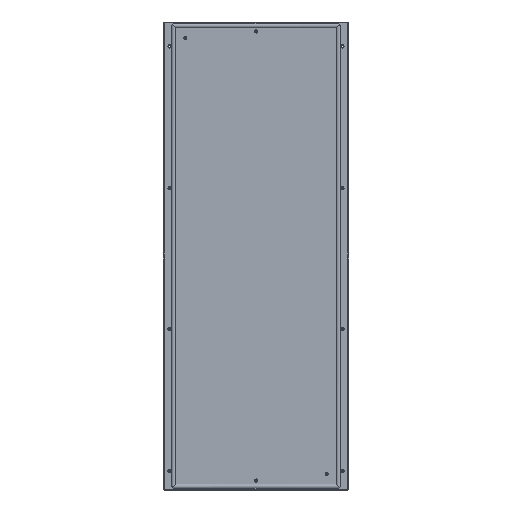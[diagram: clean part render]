
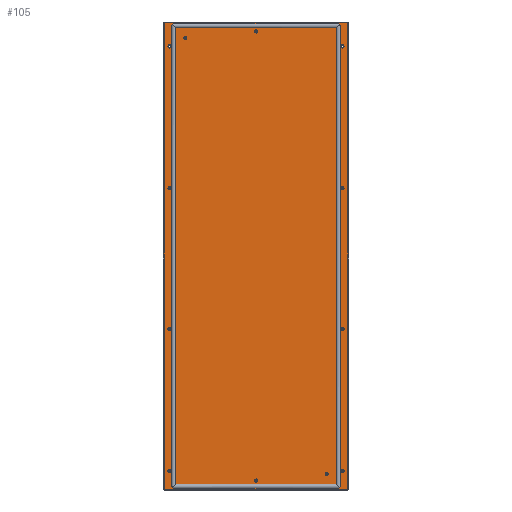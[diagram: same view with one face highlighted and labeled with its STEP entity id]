
A CAD part, top view. The second image highlights one B-rep face of the part: STEP entity #105.
In plain terms, the highlighted planar face has unit normal (0, 0, 1).
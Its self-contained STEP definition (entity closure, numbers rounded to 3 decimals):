
#105=ADVANCED_FACE('',(#428,#430,#432,#434,#436,#438,#440,#442,#444,#446,#448,#450,
#452),#454,.T.);
#428=FACE_BOUND('',#429,.T.);
#429=EDGE_LOOP('',(#1729,#1730,#1731,#1732));
#430=FACE_BOUND('',#431,.T.);
#431=EDGE_LOOP('',(#1733));
#432=FACE_BOUND('',#433,.T.);
#433=EDGE_LOOP('',(#1734));
#434=FACE_BOUND('',#435,.T.);
#435=EDGE_LOOP('',(#1735));
#436=FACE_BOUND('',#437,.T.);
#437=EDGE_LOOP('',(#1736));
#438=FACE_BOUND('',#439,.T.);
#439=EDGE_LOOP('',(#1737));
#440=FACE_BOUND('',#441,.T.);
#441=EDGE_LOOP('',(#1738));
#442=FACE_BOUND('',#443,.T.);
#443=EDGE_LOOP('',(#1739));
#444=FACE_BOUND('',#445,.T.);
#445=EDGE_LOOP('',(#1740));
#446=FACE_BOUND('',#447,.T.);
#447=EDGE_LOOP('',(#1741));
#448=FACE_BOUND('',#449,.T.);
#449=EDGE_LOOP('',(#1742));
#450=FACE_BOUND('',#451,.T.);
#451=EDGE_LOOP('',(#1743));
#452=FACE_BOUND('',#453,.T.);
#453=EDGE_LOOP('',(#1744));
#454=PLANE('',#455);
#455=AXIS2_PLACEMENT_3D('',#456,#457,#458);
#456=CARTESIAN_POINT('',(0.,0.,1.4));
#457=DIRECTION('',(0.,0.,1.));
#458=DIRECTION('',(1.,0.,0.));
#1729=ORIENTED_EDGE('',*,*,#2273,.F.);
#1730=ORIENTED_EDGE('',*,*,#2274,.F.);
#1731=ORIENTED_EDGE('',*,*,#2275,.F.);
#1732=ORIENTED_EDGE('',*,*,#2276,.F.);
#1733=ORIENTED_EDGE('',*,*,#2233,.F.);
#1734=ORIENTED_EDGE('',*,*,#2245,.F.);
#1735=ORIENTED_EDGE('',*,*,#2249,.F.);
#1736=ORIENTED_EDGE('',*,*,#2237,.F.);
#1737=ORIENTED_EDGE('',*,*,#2239,.F.);
#1738=ORIENTED_EDGE('',*,*,#2235,.F.);
#1739=ORIENTED_EDGE('',*,*,#2247,.F.);
#1740=ORIENTED_EDGE('',*,*,#2229,.F.);
#1741=ORIENTED_EDGE('',*,*,#2231,.F.);
#1742=ORIENTED_EDGE('',*,*,#2241,.F.);
#1743=ORIENTED_EDGE('',*,*,#2251,.F.);
#1744=ORIENTED_EDGE('',*,*,#2243,.F.);
#2229=EDGE_CURVE('',#2501,#2501,#2502,.T.);
#2231=EDGE_CURVE('',#2505,#2505,#2506,.T.);
#2233=EDGE_CURVE('',#2509,#2509,#2510,.T.);
#2235=EDGE_CURVE('',#2513,#2513,#2514,.T.);
#2237=EDGE_CURVE('',#2517,#2517,#2518,.T.);
#2239=EDGE_CURVE('',#2521,#2521,#2522,.T.);
#2241=EDGE_CURVE('',#2525,#2525,#2526,.T.);
#2243=EDGE_CURVE('',#2529,#2529,#2530,.T.);
#2245=EDGE_CURVE('',#2533,#2533,#2534,.T.);
#2247=EDGE_CURVE('',#2537,#2537,#2538,.T.);
#2249=EDGE_CURVE('',#2541,#2541,#2542,.T.);
#2251=EDGE_CURVE('',#2545,#2545,#2546,.T.);
#2273=EDGE_CURVE('',#2589,#2590,#2591,.T.);
#2274=EDGE_CURVE('',#2592,#2589,#2593,.T.);
#2275=EDGE_CURVE('',#2594,#2592,#2595,.T.);
#2276=EDGE_CURVE('',#2590,#2594,#2596,.T.);
#2501=VERTEX_POINT('',#2953);
#2502=CIRCLE('',#2954,0.5);
#2505=VERTEX_POINT('',#2963);
#2506=CIRCLE('',#2964,0.5);
#2509=VERTEX_POINT('',#2973);
#2510=CIRCLE('',#2974,6.75);
#2513=VERTEX_POINT('',#2983);
#2514=CIRCLE('',#2984,6.75);
#2517=VERTEX_POINT('',#2993);
#2518=CIRCLE('',#2994,6.75);
#2521=VERTEX_POINT('',#3003);
#2522=CIRCLE('',#3004,6.75);
#2525=VERTEX_POINT('',#3013);
#2526=CIRCLE('',#3014,6.75);
#2529=VERTEX_POINT('',#3023);
#2530=CIRCLE('',#3024,6.75);
#2533=VERTEX_POINT('',#3033);
#2534=CIRCLE('',#3034,6.75);
#2537=VERTEX_POINT('',#3043);
#2538=CIRCLE('',#3044,6.75);
#2541=VERTEX_POINT('',#3053);
#2542=CIRCLE('',#3054,6.75);
#2545=VERTEX_POINT('',#3063);
#2546=CIRCLE('',#3064,6.75);
#2589=VERTEX_POINT('',#3173);
#2590=VERTEX_POINT('',#3174);
#2591=LINE('',#3175,#3176);
#2592=VERTEX_POINT('',#3178);
#2593=LINE('',#3179,#3180);
#2594=VERTEX_POINT('',#3182);
#2595=LINE('',#3183,#3184);
#2596=LINE('',#3186,#3187);
#2953=CARTESIAN_POINT('',(-299.5,925.,1.4));
#2954=AXIS2_PLACEMENT_3D('',#2955,#2956,#2957);
#2955=CARTESIAN_POINT('',(-300.,925.,1.4));
#2956=DIRECTION('',(0.,0.,1.));
#2957=DIRECTION('',(-1.,0.,0.));
#2963=CARTESIAN_POINT('',(300.5,-925.,1.4));
#2964=AXIS2_PLACEMENT_3D('',#2965,#2966,#2967);
#2965=CARTESIAN_POINT('',(300.,-925.,1.4));
#2966=DIRECTION('',(0.,0.,1.));
#2967=DIRECTION('',(-1.,0.,0.));
#2973=CARTESIAN_POINT('',(373.75,889.25,1.4));
#2974=AXIS2_PLACEMENT_3D('',#2975,#2976,#2977);
#2975=CARTESIAN_POINT('',(367.,889.25,1.4));
#2976=DIRECTION('',(0.,0.,1.));
#2977=DIRECTION('',(-1.,0.,0.));
#2983=CARTESIAN_POINT('',(-360.25,-309.75,1.4));
#2984=AXIS2_PLACEMENT_3D('',#2985,#2986,#2987);
#2985=CARTESIAN_POINT('',(-367.,-309.75,1.4));
#2986=DIRECTION('',(0.,0.,1.));
#2987=DIRECTION('',(-1.,0.,0.));
#2993=CARTESIAN_POINT('',(373.75,-911.75,1.4));
#2994=AXIS2_PLACEMENT_3D('',#2995,#2996,#2997);
#2995=CARTESIAN_POINT('',(367.,-911.75,1.4));
#2996=DIRECTION('',(0.,0.,1.));
#2997=DIRECTION('',(-1.,0.,0.));
#3003=CARTESIAN_POINT('',(-360.25,-911.75,1.4));
#3004=AXIS2_PLACEMENT_3D('',#3005,#3006,#3007);
#3005=CARTESIAN_POINT('',(-367.,-911.75,1.4));
#3006=DIRECTION('',(0.,0.,1.));
#3007=DIRECTION('',(-1.,0.,0.));
#3013=CARTESIAN_POINT('',(6.75,953.,1.4));
#3014=AXIS2_PLACEMENT_3D('',#3015,#3016,#3017);
#3015=CARTESIAN_POINT('',(0.,953.,1.4));
#3016=DIRECTION('',(0.,0.,1.));
#3017=DIRECTION('',(-1.,0.,0.));
#3023=CARTESIAN_POINT('',(-360.25,889.25,1.4));
#3024=AXIS2_PLACEMENT_3D('',#3025,#3026,#3027);
#3025=CARTESIAN_POINT('',(-367.,889.25,1.4));
#3026=DIRECTION('',(0.,0.,1.));
#3027=DIRECTION('',(-1.,0.,0.));
#3033=CARTESIAN_POINT('',(373.75,287.25,1.4));
#3034=AXIS2_PLACEMENT_3D('',#3035,#3036,#3037);
#3035=CARTESIAN_POINT('',(367.,287.25,1.4));
#3036=DIRECTION('',(0.,0.,1.));
#3037=DIRECTION('',(-1.,0.,0.));
#3043=CARTESIAN_POINT('',(-360.25,287.25,1.4));
#3044=AXIS2_PLACEMENT_3D('',#3045,#3046,#3047);
#3045=CARTESIAN_POINT('',(-367.,287.25,1.4));
#3046=DIRECTION('',(0.,0.,1.));
#3047=DIRECTION('',(-1.,0.,0.));
#3053=CARTESIAN_POINT('',(373.75,-309.75,1.4));
#3054=AXIS2_PLACEMENT_3D('',#3055,#3056,#3057);
#3055=CARTESIAN_POINT('',(367.,-309.75,1.4));
#3056=DIRECTION('',(0.,0.,1.));
#3057=DIRECTION('',(-1.,0.,0.));
#3063=CARTESIAN_POINT('',(6.75,-953.,1.4));
#3064=AXIS2_PLACEMENT_3D('',#3065,#3066,#3067);
#3065=CARTESIAN_POINT('',(0.,-953.,1.4));
#3066=DIRECTION('',(0.,0.,1.));
#3067=DIRECTION('',(-1.,0.,0.));
#3173=CARTESIAN_POINT('',(389.8,989.8,1.4));
#3174=CARTESIAN_POINT('',(389.8,-989.8,1.4));
#3175=CARTESIAN_POINT('',(389.8,989.8,1.4));
#3176=VECTOR('',#3177,1.);
#3177=DIRECTION('',(0.,-1.,0.));
#3178=CARTESIAN_POINT('',(-389.8,989.8,1.4));
#3179=CARTESIAN_POINT('',(-389.8,989.8,1.4));
#3180=VECTOR('',#3181,1.);
#3181=DIRECTION('',(1.,0.,0.));
#3182=CARTESIAN_POINT('',(-389.8,-989.8,1.4));
#3183=CARTESIAN_POINT('',(-389.8,-989.8,1.4));
#3184=VECTOR('',#3185,1.);
#3185=DIRECTION('',(0.,1.,0.));
#3186=CARTESIAN_POINT('',(389.8,-989.8,1.4));
#3187=VECTOR('',#3188,1.);
#3188=DIRECTION('',(-1.,0.,0.));
